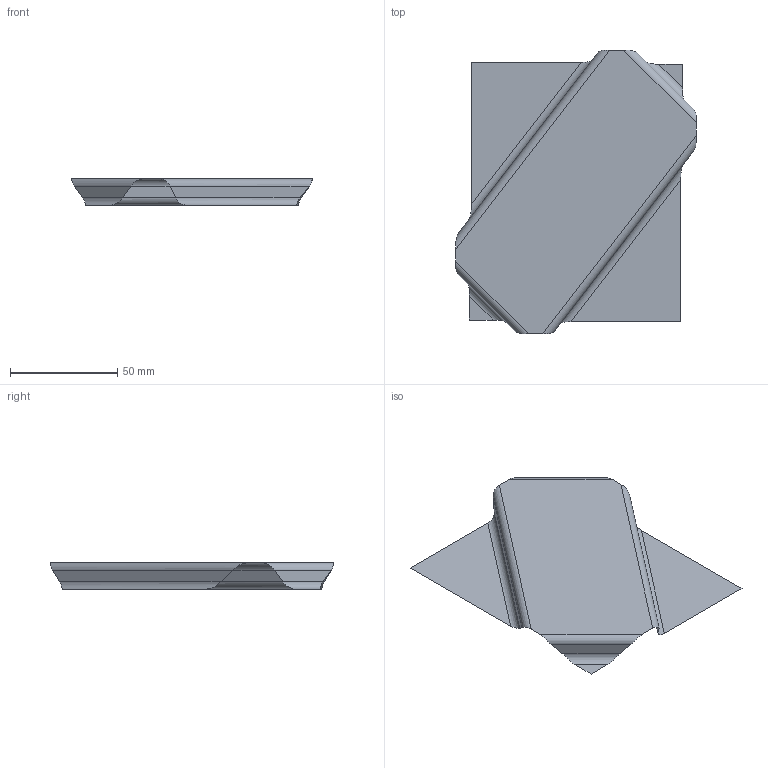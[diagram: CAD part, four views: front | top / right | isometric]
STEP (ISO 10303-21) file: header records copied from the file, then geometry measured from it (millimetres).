
FILE_DESCRIPTION(('CATIA V5 STEP Exchange'),'2;1');
FILE_NAME('C:\_Andres\UNIVERSIDAD\IQS\ASIGNATURAS\DAO\EXF\EXF-15161c\1original\Sala_García_Ej03-chapa_v22.stp','2016-03-04T16:56:09+00:00',('none'),('none'),'CATIA Version 5 Release 20 SP 1 (IN-10)','CATIA V5 STEP AP203','none');
FILE_SCHEMA(('CONFIG_CONTROL_DESIGN'));
Length unit declared in the file: millimetre
Products named in the file (1): Sala_García_Ej03-chapa_v22
Bounding box: 112.01 x 132.01 x 12.29 mm (x, y, z)
Surface area: 14830 mm2 (no closed solid volume)
Topology: 0 solids, 1 shells, 17 faces, 52 edges, 36 vertices
Faces by surface type: plane 9, cylinder 8
Entity records: 622 total; most frequent: CARTESIAN_POINT 203, ORIENTED_EDGE 68, DIRECTION 56, EDGE_CURVE 52, VERTEX_POINT 36, B_SPLINE_CURVE_WITH_KNOTS 32, VECTOR 20, LINE 20
